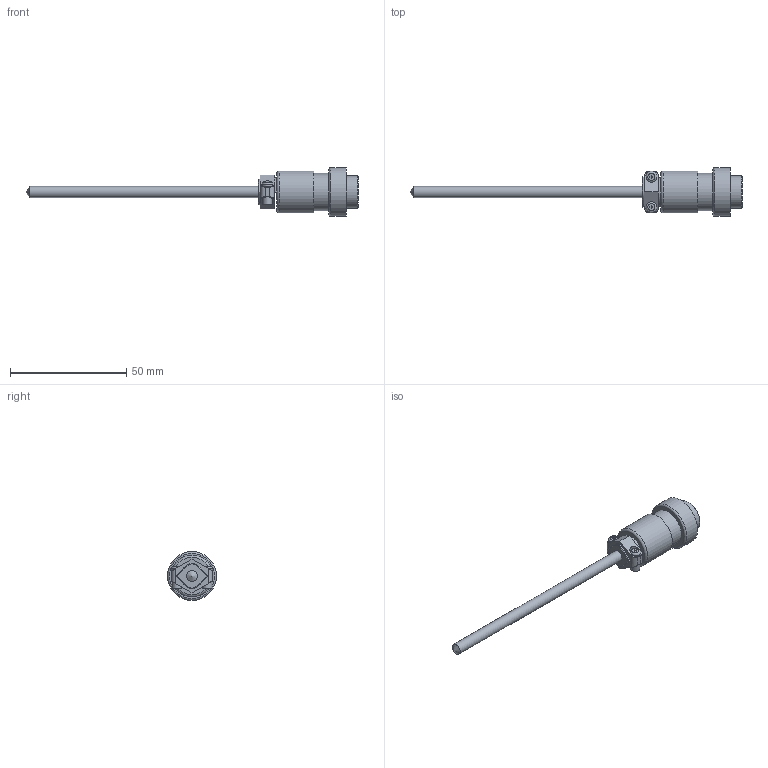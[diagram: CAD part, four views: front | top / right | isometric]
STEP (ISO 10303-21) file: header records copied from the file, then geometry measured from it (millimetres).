
FILE_DESCRIPTION (( 'STEP AP203' ), '1' );
FILE_NAME ('YIR90-3(0).step', '2025-05-28T07:06:09', ( '' ), ( '' ), 'SwSTEP 2.0', 'SolidWorks 2021', '' );
FILE_SCHEMA (( 'CONFIG_CONTROL_DESIGN' ));
Length unit declared in the file: millimetre
Products named in the file (1): YIR90-3(0)
Bounding box: 143 x 21 x 21 mm (x, y, z)
Volume: 10087.9 mm3; surface area: 6277.1 mm2
Topology: 4 solids, 4 shells, 84 faces, 202 edges, 132 vertices
Faces by surface type: plane 50, cylinder 21, torus 4, bspline 4, sphere 3, cone 2
Full cylindrical faces by diameter (mm): 2 x2, 2.5 x1, 4 x2, 4.7 x2, 4.8 x3, 13.5 x1, 14 x1, 16 x2, 18 x1, 21 x1
Entity records: 2421 total; most frequent: CARTESIAN_POINT 621, DIRECTION 336, ORIENTED_EDGE 320, EDGE_CURVE 160, EDGE_LOOP 122, VERTEX_POINT 118, AXIS2_PLACEMENT_3D 117, FACE_OUTER_BOUND 104
